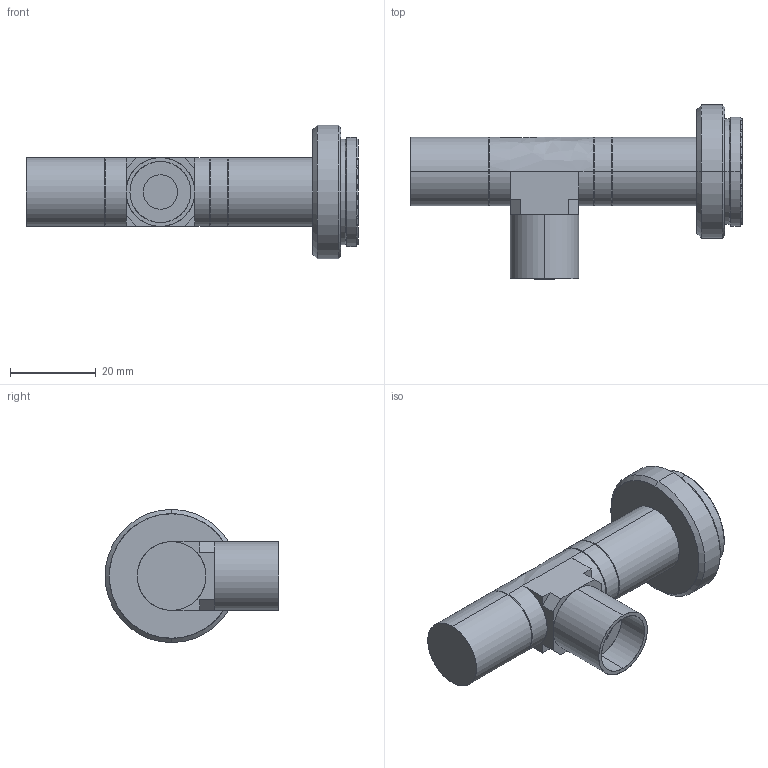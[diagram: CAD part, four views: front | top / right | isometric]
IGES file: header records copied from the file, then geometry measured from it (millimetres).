
Start section: SolidWorks IGES file using analytic representation for surfaces
Bounding box: 77.3 x 40.5 x 31 mm (x, y, z)
Surface area: 7316.5 mm2 (no closed solid volume)
Topology: 0 solids, 0 shells, 64 faces, 724 edges, 724 vertices
Faces by surface type: revolution 41, bspline 23
